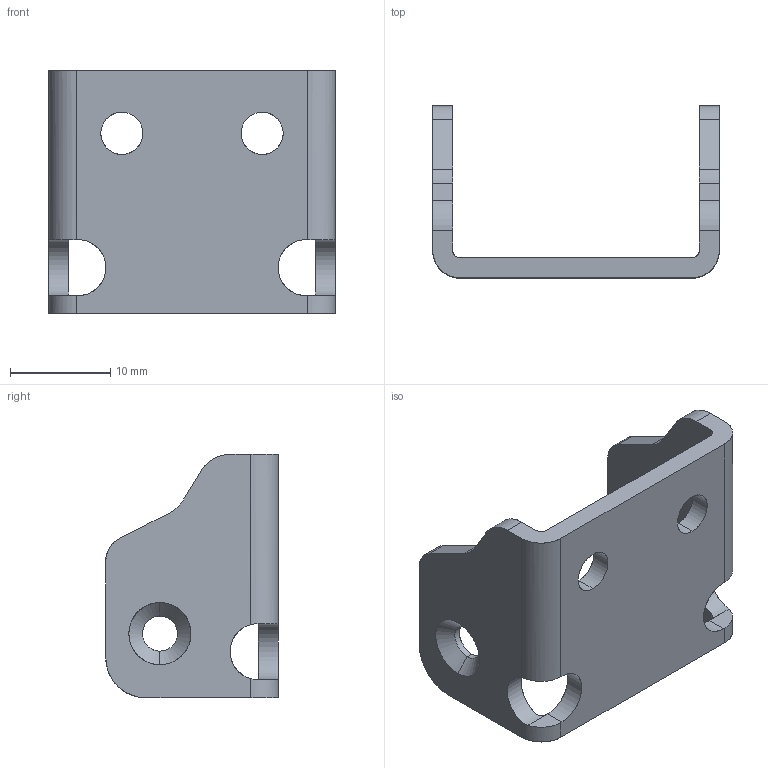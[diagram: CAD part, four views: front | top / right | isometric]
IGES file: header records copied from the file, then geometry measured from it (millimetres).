
Start section: SolidWorks IGES FILE using analytic representation for surfaces
Global section: file name: C:\Documents and Settings\lecoutey\Bureau\GR 62\62.020.00.IGS; native system: SolidWorks 2004 by SolidWorks Corporation; preprocessor: Version 5.3; author: lecoutey; date: 050330.161030; units: millimetre
Bounding box: 28.6 x 17.2 x 24.3 mm (x, y, z)
Surface area: 2759.7 mm2 (no closed solid volume)
Topology: 0 solids, 0 shells, 50 faces, 812 edges, 812 vertices
Faces by surface type: revolution 32, bspline 18
